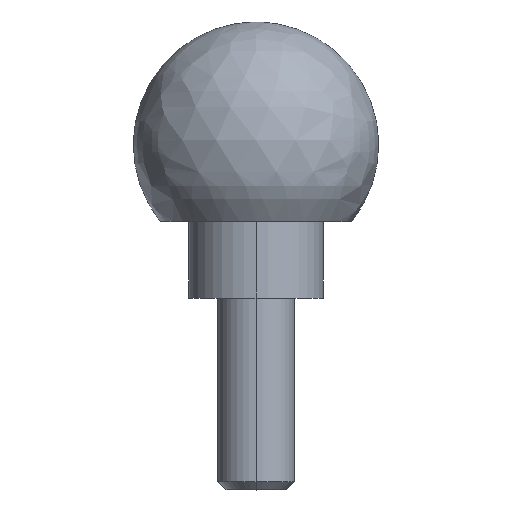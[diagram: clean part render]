
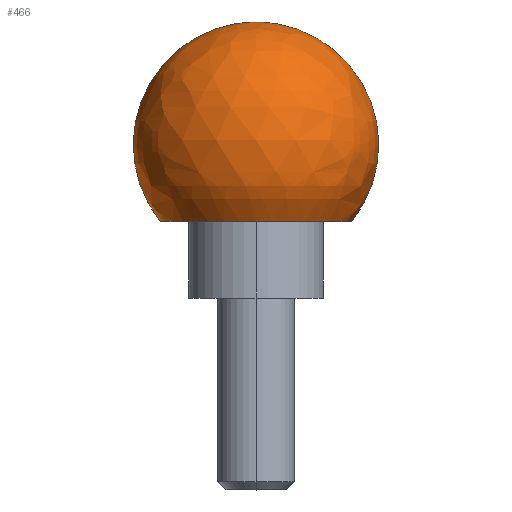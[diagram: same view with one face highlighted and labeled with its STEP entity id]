
A CAD part, top view. The second image highlights one B-rep face of the part: STEP entity #466.
In plain terms, the highlighted free-form (B-spline) face has degree [3, 3] with [4, 4] control points.
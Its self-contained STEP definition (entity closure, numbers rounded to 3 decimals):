
#14 = CARTESIAN_POINT ( 'NONE',  ( 0., 6.4, 0. ) ) ;
#16 = CARTESIAN_POINT ( 'NONE',  ( 4.996, -4., 0. ) ) ;
#23 = CARTESIAN_POINT ( 'NONE',  ( -8.86, 0.827, 0. ) ) ;
#39 = EDGE_CURVE ( 'NONE', #578, #522, #354, .T. ) ;
#60 = CARTESIAN_POINT ( 'NONE',  ( -4.996, -4., 9.992 ) ) ;
#64 = CARTESIAN_POINT ( 'NONE',  ( -4.996, -4., 0. ) ) ;
#77 = CARTESIAN_POINT ( 'NONE',  ( 0., 6.4, 0. ) ) ;
#97 = DIRECTION ( 'NONE',  ( 0., -1., 0. ) ) ;
#102 = EDGE_CURVE ( 'NONE', #601, #578, #179, .T. ) ;
#108 = CARTESIAN_POINT ( 'NONE',  ( 6.183, 6.4, 12.366 ) ) ;
#109 = CARTESIAN_POINT ( 'NONE',  ( 0., 6.4, 0. ) ) ;
#120 = CARTESIAN_POINT ( 'NONE',  ( 0., 0., 0. ) ) ;
#124 = AXIS2_PLACEMENT_3D ( 'NONE', #120, #554, #217 ) ;
#131 = FACE_OUTER_BOUND ( 'NONE', #361, .T. ) ;
#137 = DIRECTION ( 'NONE',  ( 0., 1., 0. ) ) ;
#158 = ORIENTED_EDGE ( 'NONE', *, *, #102, .T. ) ;
#160 = CARTESIAN_POINT ( 'NONE',  ( -6.183, 6.4, 12.366 ) ) ;
#179 = CIRCLE ( 'NONE', #428, 4.996 ) ;
#184 = DIRECTION ( 'NONE',  ( 0., 0., -1. ) ) ;
#194 = ORIENTED_EDGE ( 'NONE', *, *, #39, .T. ) ;
#217 = DIRECTION ( 'NONE',  ( 0., -1., 0. ) ) ;
#223 = CIRCLE ( 'NONE', #344, 6.4 ) ;
#259 = CARTESIAN_POINT ( 'NONE',  ( 0., 6.4, 0. ) ) ;
#286 = EDGE_CURVE ( 'NONE', #601, #522, #223, .T. ) ;
#287 = CARTESIAN_POINT ( 'NONE',  ( -4.996, -4., 0. ) ) ;
#297 = ORIENTED_EDGE ( 'NONE', *, *, #286, .F. ) ;
#344 = AXIS2_PLACEMENT_3D ( 'NONE', #585, #531, #97 ) ;
#354 = CIRCLE ( 'NONE', #124, 6.4 ) ;
#355 = CARTESIAN_POINT ( 'NONE',  ( 4.996, -4., 9.992 ) ) ;
#361 = EDGE_LOOP ( 'NONE', ( #158, #194, #297 ) ) ;
#399 = CARTESIAN_POINT ( 'NONE',  ( 8.86, 0.827, 17.721 ) ) ;
#402 = CARTESIAN_POINT ( 'NONE',  ( 8.86, 0.827, 0. ) ) ;
#428 = AXIS2_PLACEMENT_3D ( 'NONE', #429, #137, #184 ) ;
#429 = CARTESIAN_POINT ( 'NONE',  ( 0., -4., 0. ) ) ;
#466 = ADVANCED_FACE ( 'NONE', ( #131 ), #502, .T. ) ;
#502 =( BOUNDED_SURFACE ( )  B_SPLINE_SURFACE ( 3, 3, ( 
 ( #16, #355, #60, #64 ),
 ( #402, #399, #598, #23 ),
 ( #543, #108, #160, #590 ),
 ( #109, #14, #259, #594 ) ),
 .UNSPECIFIED., .F., .F., .F. ) 
 B_SPLINE_SURFACE_WITH_KNOTS ( ( 4, 4 ),
 ( 4, 4 ),
 ( 0., 1. ),
 ( 0., 1. ),
 .UNSPECIFIED. ) 
 GEOMETRIC_REPRESENTATION_ITEM ( )  RATIONAL_B_SPLINE_SURFACE ( (
 ( 1., 0.333, 0.333, 1.),
 ( 0.622, 0.207, 0.207, 0.622),
 ( 0.622, 0.207, 0.207, 0.622),
 ( 1., 0.333, 0.333, 1.) ) ) 
 REPRESENTATION_ITEM ( '' )  SURFACE ( )  );
#522 = VERTEX_POINT ( 'NONE', #77 ) ;
#531 = DIRECTION ( 'NONE',  ( 0., 0., -1. ) ) ;
#543 = CARTESIAN_POINT ( 'NONE',  ( 6.183, 6.4, 0. ) ) ;
#554 = DIRECTION ( 'NONE',  ( 0., 0., 1. ) ) ;
#578 = VERTEX_POINT ( 'NONE', #618 ) ;
#585 = CARTESIAN_POINT ( 'NONE',  ( 0., 0., 0. ) ) ;
#590 = CARTESIAN_POINT ( 'NONE',  ( -6.183, 6.4, 0. ) ) ;
#594 = CARTESIAN_POINT ( 'NONE',  ( 0., 6.4, 0. ) ) ;
#598 = CARTESIAN_POINT ( 'NONE',  ( -8.86, 0.827, 17.721 ) ) ;
#601 = VERTEX_POINT ( 'NONE', #287 ) ;
#618 = CARTESIAN_POINT ( 'NONE',  ( 4.996, -4., 0. ) ) ;
